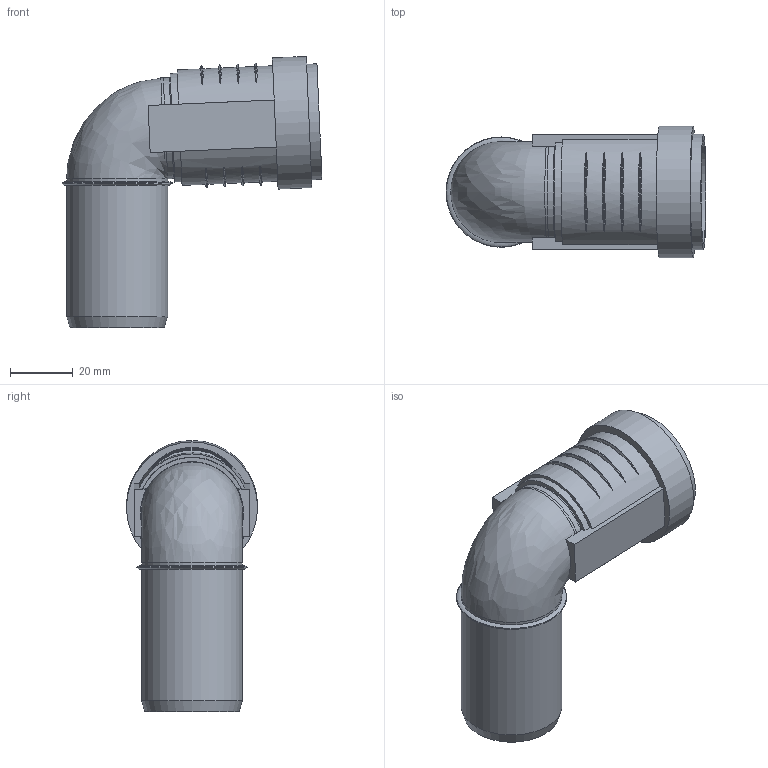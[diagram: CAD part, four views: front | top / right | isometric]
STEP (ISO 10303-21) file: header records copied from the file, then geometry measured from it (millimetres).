
FILE_DESCRIPTION(/* description */ (''),/* implementation_level */ '2;1');
FILE_NAME(/* name */ 'Z:\Geberit\Export\NewStep\390024.stp',/* time_stamp */ '2014-04-02T08:08:13+02:00',/* author */ ('ML'),/* organization */ (''),/* preprocessor_version */ 'ST-DEVELOPER v15.2',/* originating_system */ 'Autodesk Inventor 2014',/* authorisation */ '');
FILE_SCHEMA (('AUTOMOTIVE_DESIGN { 1 0 10303 214 3 1 1 }'));
Length unit declared in the file: millimetre
Products named in the file (3): 861590; 861632; 390024
Bounding box: 82.8 x 41.8 x 86.34 mm (x, y, z)
Volume: 28021.4 mm3; surface area: 28396.3 mm2
Topology: 2 solids, 2 shells, 68 faces, 162 edges, 109 vertices
Faces by surface type: torus 28, plane 19, cylinder 18, cone 2, bspline 1
Full cylindrical faces by diameter (mm): 28.15 x3, 32.15 x4, 32.8 x2, 36.8 x1, 37.8 x1, 41.8 x1
Entity records: 2662 total; most frequent: CARTESIAN_POINT 1086, DIRECTION 290, ORIENTED_EDGE 278, EDGE_CURVE 139, AXIS2_PLACEMENT_3D 127, VERTEX_POINT 106, EDGE_LOOP 103, STYLED_ITEM 70
